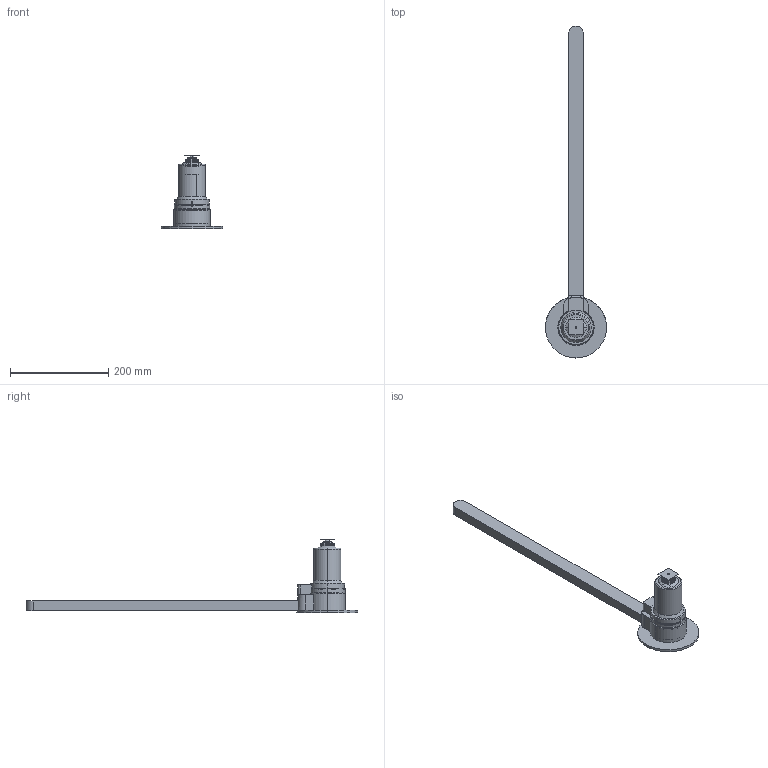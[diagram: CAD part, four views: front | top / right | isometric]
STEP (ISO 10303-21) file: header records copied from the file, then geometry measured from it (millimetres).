
FILE_DESCRIPTION (( 'STEP AP214' ), '1' );
FILE_NAME ('22S-06-100-TTW.STEP', '2022-01-11T06:17:05', ( '' ), ( '' ), 'SwSTEP 2.0', 'SolidWorks 2018', '' );
FILE_SCHEMA (( 'AUTOMOTIVE_DESIGN' ));
Length unit declared in the file: millimetre
Products named in the file (3): nozzle_22S-06-100-TTW; 22S-06-100-TTW; cutout_22S-06-100-TTW
Assembly tree (2 placements, depth 2):
  22S-06-100-TTW
    nozzle_22S-06-100-TTW
    cutout_22S-06-100-TTW
Bounding box: 125 x 677.5 x 150 mm (x, y, z)
Volume: 857458.8 mm3; surface area: 156542 mm2
Topology: 1 solids, 5 shells, 591 faces, 1563 edges, 970 vertices
Faces by surface type: plane 231, cylinder 185, cone 109, torus 60, sphere 5, bspline 1
Entity records: 19359 total; most frequent: CARTESIAN_POINT 4309, DIRECTION 3244, ORIENTED_EDGE 3104, EDGE_CURVE 1554, AXIS2_PLACEMENT_3D 1233, VERTEX_POINT 970, VECTOR 778, LINE 778
